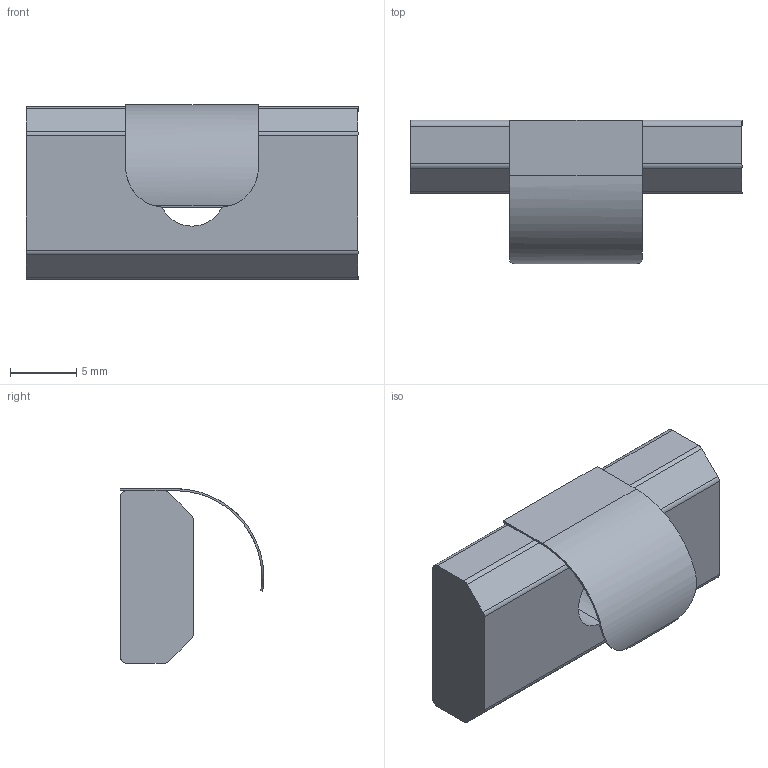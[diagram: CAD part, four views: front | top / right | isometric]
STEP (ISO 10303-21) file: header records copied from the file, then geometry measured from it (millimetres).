
FILE_DESCRIPTION (( 'STEP AP214' ), '1' );
FILE_NAME ('1.2154 Neliömutteri M6 L kiinnityslevyllä.STEP', '2026-03-10T11:24:04', ( '' ), ( '' ), 'SwSTEP 2.0', 'SolidWorks 2025', '' );
FILE_SCHEMA (( 'AUTOMOTIVE_DESIGN' ));
Length unit declared in the file: millimetre
Products named in the file (1): 1.2154 Neliömutteri M6 L kiinnityslevyllä
Bounding box: 25 x 10.8 x 13.15 mm (x, y, z)
Volume: 1596.7 mm3; surface area: 1285.5 mm2
Topology: 1 solids, 1 shells, 34 faces, 86 edges, 54 vertices
Faces by surface type: plane 20, cylinder 12, cone 2
Entity records: 1225 total; most frequent: CARTESIAN_POINT 501, ORIENTED_EDGE 172, DIRECTION 100, EDGE_CURVE 86, B_SPLINE_CURVE_WITH_KNOTS 62, VERTEX_POINT 54, AXIS2_PLACEMENT_3D 41, EDGE_LOOP 36
